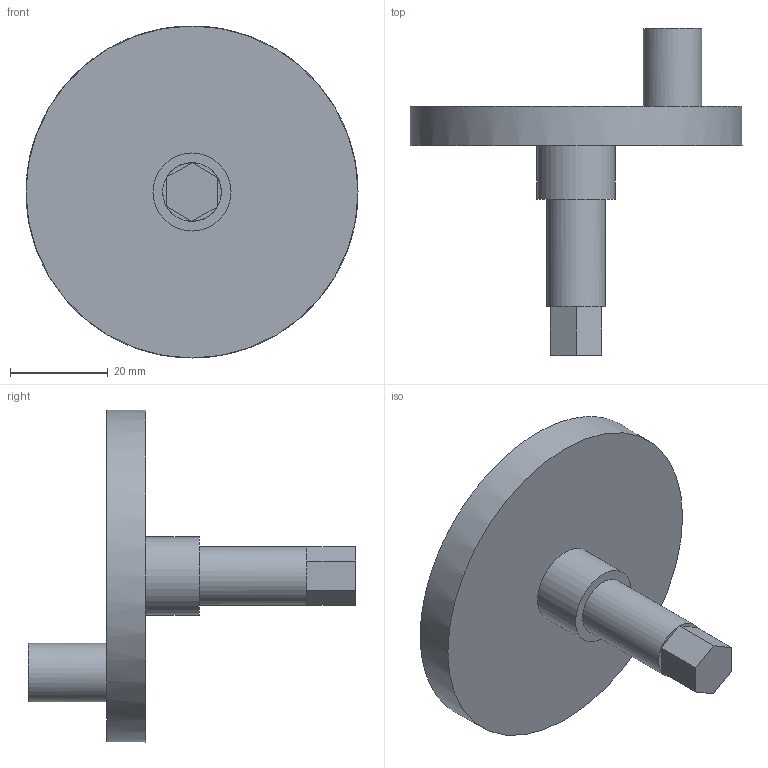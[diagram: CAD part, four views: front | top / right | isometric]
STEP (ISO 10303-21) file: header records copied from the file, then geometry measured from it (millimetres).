
FILE_DESCRIPTION(('STEP AP242'), '1');
FILE_NAME('ﾁ瑩珮瑙', '', ('UNSPECIFIED'), ('UNSPECIFIED'), 'C3D Converter', 'C3D Toolkit', '');
FILE_SCHEMA(('AP242_MANAGED_MODEL_BASED_3D_ENGINEERING_MIM_LF { 1 0 10303 442 1 1 4 }'));
Length unit declared in the file: millimetre
Bounding box: 68 x 67 x 68 mm (x, y, z)
Volume: 36498.1 mm3; surface area: 11317.9 mm2
Topology: 1 solids, 1 shells, 21 faces, 38 edges, 21 vertices
Faces by surface type: plane 17, cylinder 4
Full cylindrical faces by diameter (mm): 12 x2, 16 x1, 68 x1
Entity records: 524 total; most frequent: DIRECTION 94, CARTESIAN_POINT 77, ORIENTED_EDGE 68, AXIS2_PLACEMENT_3D 38, EDGE_CURVE 34, EDGE_LOOP 27, FACE_BOUND 22, ADVANCED_FACE 21
